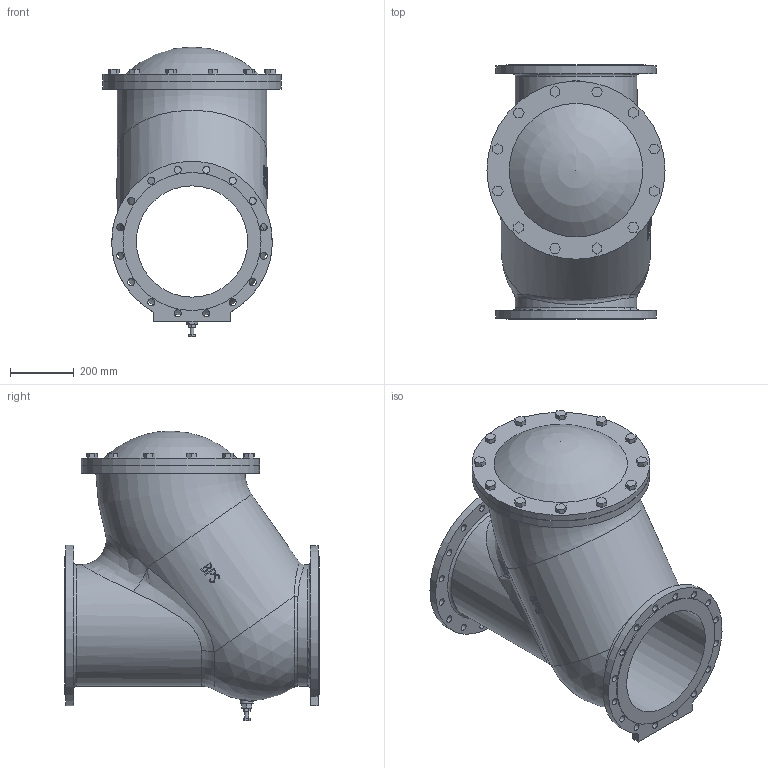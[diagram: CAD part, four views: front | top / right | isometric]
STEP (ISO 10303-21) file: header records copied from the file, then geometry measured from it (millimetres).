
FILE_DESCRIPTION( ( 'Unknown' ), '1' );
FILE_NAME( 'J:/Muud/ROOTSI BPS 3D vidinad/Kuuliga tagasiloogiklapid/STEP formaat/BPS 6538350 ball check valve DN350.stp', 'Unknown', ( 'Unknown' ), ( 'Unknown' ), 'PSStep 10.1', 'Unknown', ' ' );
FILE_SCHEMA( ( 'AUTOMOTIVE_DESIGN { 1 0 10303 214 1 1 1 1 }' ) );
Length unit declared in the file: millimetre
Products named in the file (2): 1; 2
Bounding box: 560 x 800 x 911.46 mm (x, y, z)
Volume: 108948808.6 mm3; surface area: 3648468.1 mm2
Topology: 2 solids, 2 shells, 376 faces, 968 edges, 656 vertices
Faces by surface type: plane 211, cylinder 95, bspline 63, torus 5, sphere 2
Full cylindrical faces by diameter (mm): 12 x1, 20.752 x1, 22 x56, 40 x1, 350 x1, 382 x2, 434 x2, 505 x1, 560 x2
Entity records: 32443 total; most frequent: CARTESIAN_POINT 21514, ORIENTED_EDGE 1684, DIRECTION 1208, EDGE_CURVE 842, VERTEX_POINT 609, EDGE_LOOP 605, AXIS2_PLACEMENT_3D 464, FACE_OUTER_BOUND 453
